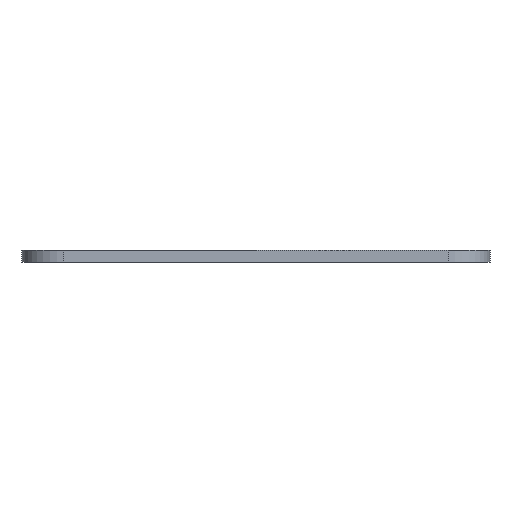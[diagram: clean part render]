
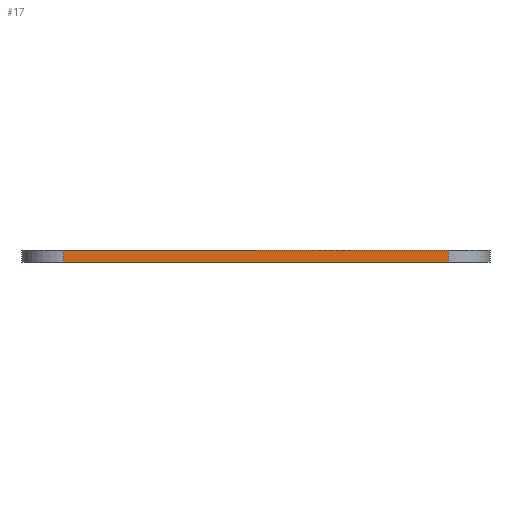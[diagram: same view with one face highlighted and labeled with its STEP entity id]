
A CAD part, left-side view. The second image highlights one B-rep face of the part: STEP entity #17.
In plain terms, the highlighted planar face has unit normal (-1, 0, 0).
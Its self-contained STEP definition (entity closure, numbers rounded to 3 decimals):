
#17 = ADVANCED_FACE('',(#18),#32,.F.);
#18 = FACE_BOUND('',#19,.F.);
#19 = EDGE_LOOP('',(#20,#55,#83,#111));
#20 = ORIENTED_EDGE('',*,*,#21,.F.);
#21 = EDGE_CURVE('',#22,#24,#26,.T.);
#22 = VERTEX_POINT('',#23);
#23 = CARTESIAN_POINT('',(4.,20.,34.));
#24 = VERTEX_POINT('',#25);
#25 = CARTESIAN_POINT('',(4.,84.,34.));
#26 = SURFACE_CURVE('',#27,(#31,#43),.PCURVE_S1.);
#27 = LINE('',#28,#29);
#28 = CARTESIAN_POINT('',(4.,13.,34.));
#29 = VECTOR('',#30,1.);
#30 = DIRECTION('',(0.,1.,0.));
#31 = PCURVE('',#32,#37);
#32 = PLANE('',#33);
#33 = AXIS2_PLACEMENT_3D('',#34,#35,#36);
#34 = CARTESIAN_POINT('',(4.,13.,32.));
#35 = DIRECTION('',(1.,0.,0.));
#36 = DIRECTION('',(0.,0.,1.));
#37 = DEFINITIONAL_REPRESENTATION('',(#38),#42);
#38 = LINE('',#39,#40);
#39 = CARTESIAN_POINT('',(2.,0.));
#40 = VECTOR('',#41,1.);
#41 = DIRECTION('',(0.,-1.));
#42 = ( GEOMETRIC_REPRESENTATION_CONTEXT(2) 
PARAMETRIC_REPRESENTATION_CONTEXT() REPRESENTATION_CONTEXT('2D SPACE',''
  ) );
#43 = PCURVE('',#44,#49);
#44 = PLANE('',#45);
#45 = AXIS2_PLACEMENT_3D('',#46,#47,#48);
#46 = CARTESIAN_POINT('',(4.,13.,34.));
#47 = DIRECTION('',(0.,0.,1.));
#48 = DIRECTION('',(1.,0.,0.));
#49 = DEFINITIONAL_REPRESENTATION('',(#50),#54);
#50 = LINE('',#51,#52);
#51 = CARTESIAN_POINT('',(0.,0.));
#52 = VECTOR('',#53,1.);
#53 = DIRECTION('',(0.,1.));
#54 = ( GEOMETRIC_REPRESENTATION_CONTEXT(2) 
PARAMETRIC_REPRESENTATION_CONTEXT() REPRESENTATION_CONTEXT('2D SPACE',''
  ) );
#55 = ORIENTED_EDGE('',*,*,#56,.F.);
#56 = EDGE_CURVE('',#57,#22,#59,.T.);
#57 = VERTEX_POINT('',#58);
#58 = CARTESIAN_POINT('',(4.,20.,32.));
#59 = SURFACE_CURVE('',#60,(#64,#71),.PCURVE_S1.);
#60 = LINE('',#61,#62);
#61 = CARTESIAN_POINT('',(4.,20.,32.));
#62 = VECTOR('',#63,1.);
#63 = DIRECTION('',(0.,0.,1.));
#64 = PCURVE('',#32,#65);
#65 = DEFINITIONAL_REPRESENTATION('',(#66),#70);
#66 = LINE('',#67,#68);
#67 = CARTESIAN_POINT('',(0.,-7.));
#68 = VECTOR('',#69,1.);
#69 = DIRECTION('',(1.,0.));
#70 = ( GEOMETRIC_REPRESENTATION_CONTEXT(2) 
PARAMETRIC_REPRESENTATION_CONTEXT() REPRESENTATION_CONTEXT('2D SPACE',''
  ) );
#71 = PCURVE('',#72,#77);
#72 = CYLINDRICAL_SURFACE('',#73,7.);
#73 = AXIS2_PLACEMENT_3D('',#74,#75,#76);
#74 = CARTESIAN_POINT('',(11.,20.,32.));
#75 = DIRECTION('',(0.,0.,1.));
#76 = DIRECTION('',(-1.,-0.,0.));
#77 = DEFINITIONAL_REPRESENTATION('',(#78),#82);
#78 = LINE('',#79,#80);
#79 = CARTESIAN_POINT('',(0.,0.));
#80 = VECTOR('',#81,1.);
#81 = DIRECTION('',(0.,1.));
#82 = ( GEOMETRIC_REPRESENTATION_CONTEXT(2) 
PARAMETRIC_REPRESENTATION_CONTEXT() REPRESENTATION_CONTEXT('2D SPACE',''
  ) );
#83 = ORIENTED_EDGE('',*,*,#84,.T.);
#84 = EDGE_CURVE('',#57,#85,#87,.T.);
#85 = VERTEX_POINT('',#86);
#86 = CARTESIAN_POINT('',(4.,84.,32.));
#87 = SURFACE_CURVE('',#88,(#92,#99),.PCURVE_S1.);
#88 = LINE('',#89,#90);
#89 = CARTESIAN_POINT('',(4.,13.,32.));
#90 = VECTOR('',#91,1.);
#91 = DIRECTION('',(0.,1.,0.));
#92 = PCURVE('',#32,#93);
#93 = DEFINITIONAL_REPRESENTATION('',(#94),#98);
#94 = LINE('',#95,#96);
#95 = CARTESIAN_POINT('',(0.,0.));
#96 = VECTOR('',#97,1.);
#97 = DIRECTION('',(0.,-1.));
#98 = ( GEOMETRIC_REPRESENTATION_CONTEXT(2) 
PARAMETRIC_REPRESENTATION_CONTEXT() REPRESENTATION_CONTEXT('2D SPACE',''
  ) );
#99 = PCURVE('',#100,#105);
#100 = PLANE('',#101);
#101 = AXIS2_PLACEMENT_3D('',#102,#103,#104);
#102 = CARTESIAN_POINT('',(4.,13.,32.));
#103 = DIRECTION('',(0.,0.,1.));
#104 = DIRECTION('',(1.,0.,0.));
#105 = DEFINITIONAL_REPRESENTATION('',(#106),#110);
#106 = LINE('',#107,#108);
#107 = CARTESIAN_POINT('',(0.,0.));
#108 = VECTOR('',#109,1.);
#109 = DIRECTION('',(0.,1.));
#110 = ( GEOMETRIC_REPRESENTATION_CONTEXT(2) 
PARAMETRIC_REPRESENTATION_CONTEXT() REPRESENTATION_CONTEXT('2D SPACE',''
  ) );
#111 = ORIENTED_EDGE('',*,*,#112,.T.);
#112 = EDGE_CURVE('',#85,#24,#113,.T.);
#113 = SURFACE_CURVE('',#114,(#118,#125),.PCURVE_S1.);
#114 = LINE('',#115,#116);
#115 = CARTESIAN_POINT('',(4.,84.,32.));
#116 = VECTOR('',#117,1.);
#117 = DIRECTION('',(0.,0.,1.));
#118 = PCURVE('',#32,#119);
#119 = DEFINITIONAL_REPRESENTATION('',(#120),#124);
#120 = LINE('',#121,#122);
#121 = CARTESIAN_POINT('',(0.,-71.));
#122 = VECTOR('',#123,1.);
#123 = DIRECTION('',(1.,0.));
#124 = ( GEOMETRIC_REPRESENTATION_CONTEXT(2) 
PARAMETRIC_REPRESENTATION_CONTEXT() REPRESENTATION_CONTEXT('2D SPACE',''
  ) );
#125 = PCURVE('',#126,#131);
#126 = CYLINDRICAL_SURFACE('',#127,7.);
#127 = AXIS2_PLACEMENT_3D('',#128,#129,#130);
#128 = CARTESIAN_POINT('',(11.,84.,32.));
#129 = DIRECTION('',(0.,0.,1.));
#130 = DIRECTION('',(-1.,-0.,0.));
#131 = DEFINITIONAL_REPRESENTATION('',(#132),#136);
#132 = LINE('',#133,#134);
#133 = CARTESIAN_POINT('',(-0.,0.));
#134 = VECTOR('',#135,1.);
#135 = DIRECTION('',(-0.,1.));
#136 = ( GEOMETRIC_REPRESENTATION_CONTEXT(2) 
PARAMETRIC_REPRESENTATION_CONTEXT() REPRESENTATION_CONTEXT('2D SPACE',''
  ) );
